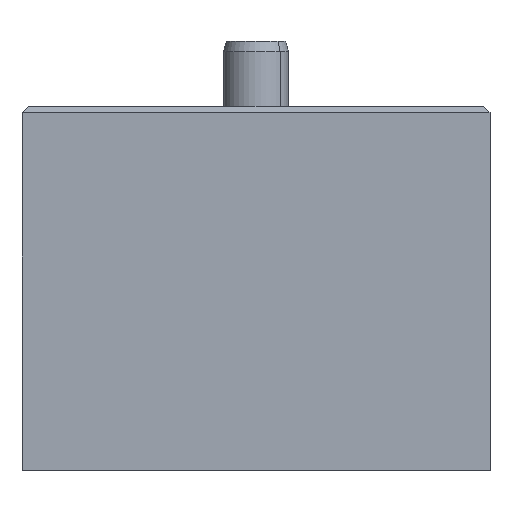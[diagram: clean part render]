
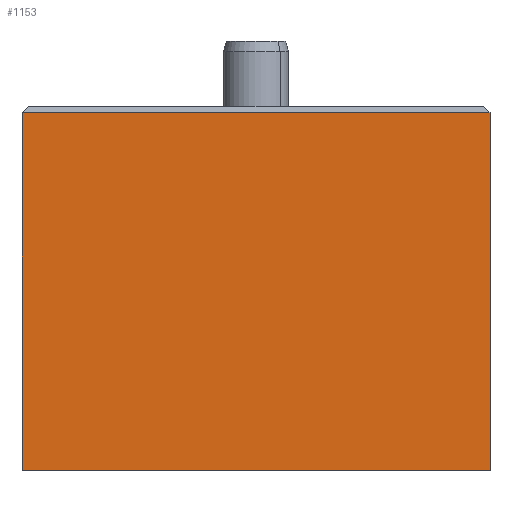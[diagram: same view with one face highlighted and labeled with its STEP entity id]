
A CAD part, top view. The second image highlights one B-rep face of the part: STEP entity #1153.
In plain terms, the highlighted planar face has unit normal (0, 0, 1).
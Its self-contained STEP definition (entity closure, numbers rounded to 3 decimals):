
#73 = EDGE_LOOP ( 'NONE', ( #207, #218, #170, #247 ) ) ;
#170 = ORIENTED_EDGE ( 'NONE', *, *, #1141, .T. ) ;
#207 = ORIENTED_EDGE ( 'NONE', *, *, #1124, .F. ) ;
#218 = ORIENTED_EDGE ( 'NONE', *, *, #1120, .T. ) ;
#247 = ORIENTED_EDGE ( 'NONE', *, *, #1109, .T. ) ;
#313 = CARTESIAN_POINT ( 'NONE',  ( 18., 27.5, 6. ) ) ;
#325 = CARTESIAN_POINT ( 'NONE',  ( -18., 0., 6. ) ) ;
#332 = CARTESIAN_POINT ( 'NONE',  ( 18., 0., 6. ) ) ;
#391 = CARTESIAN_POINT ( 'NONE',  ( -18., 27.5, 6. ) ) ;
#526 = LINE ( 'NONE', #551, #815 ) ;
#529 = DIRECTION ( 'NONE',  ( 1., 0., 0. ) ) ;
#551 = CARTESIAN_POINT ( 'NONE',  ( -18., 0., 6. ) ) ;
#561 = LINE ( 'NONE', #579, #857 ) ;
#577 = DIRECTION ( 'NONE',  ( -1., 0., 0. ) ) ;
#579 = CARTESIAN_POINT ( 'NONE',  ( 18., 28., 6. ) ) ;
#581 = CARTESIAN_POINT ( 'NONE',  ( -18., 27.5, 6. ) ) ;
#583 = LINE ( 'NONE', #581, #819 ) ;
#599 = DIRECTION ( 'NONE',  ( 0., -1., 0. ) ) ;
#620 = DIRECTION ( 'NONE',  ( 0., -1., 0. ) ) ;
#634 = LINE ( 'NONE', #648, #889 ) ;
#648 = CARTESIAN_POINT ( 'NONE',  ( -18., 28., 6. ) ) ;
#653 = VERTEX_POINT ( 'NONE', #325 ) ;
#675 = VERTEX_POINT ( 'NONE', #332 ) ;
#681 = VERTEX_POINT ( 'NONE', #313 ) ;
#709 = VERTEX_POINT ( 'NONE', #391 ) ;
#815 = VECTOR ( 'NONE', #529, 1000. ) ;
#819 = VECTOR ( 'NONE', #577, 1000. ) ;
#857 = VECTOR ( 'NONE', #599, 1000. ) ;
#875 = AXIS2_PLACEMENT_3D ( 'NONE', #1060, #1081, #1061 ) ;
#889 = VECTOR ( 'NONE', #620, 1000. ) ;
#1050 = PLANE ( 'NONE',  #875 ) ;
#1060 = CARTESIAN_POINT ( 'NONE',  ( -18., 28., 6. ) ) ;
#1061 = DIRECTION ( 'NONE',  ( -1., 0., 0. ) ) ;
#1066 = FACE_OUTER_BOUND ( 'NONE', #73, .T. ) ;
#1081 = DIRECTION ( 'NONE',  ( 0., 0., -1. ) ) ;
#1109 = EDGE_CURVE ( 'NONE', #653, #675, #526, .T. ) ;
#1120 = EDGE_CURVE ( 'NONE', #681, #709, #583, .T. ) ;
#1124 = EDGE_CURVE ( 'NONE', #681, #675, #561, .T. ) ;
#1141 = EDGE_CURVE ( 'NONE', #709, #653, #634, .T. ) ;
#1153 = ADVANCED_FACE ( 'NONE', ( #1066 ), #1050, .F. ) ;
